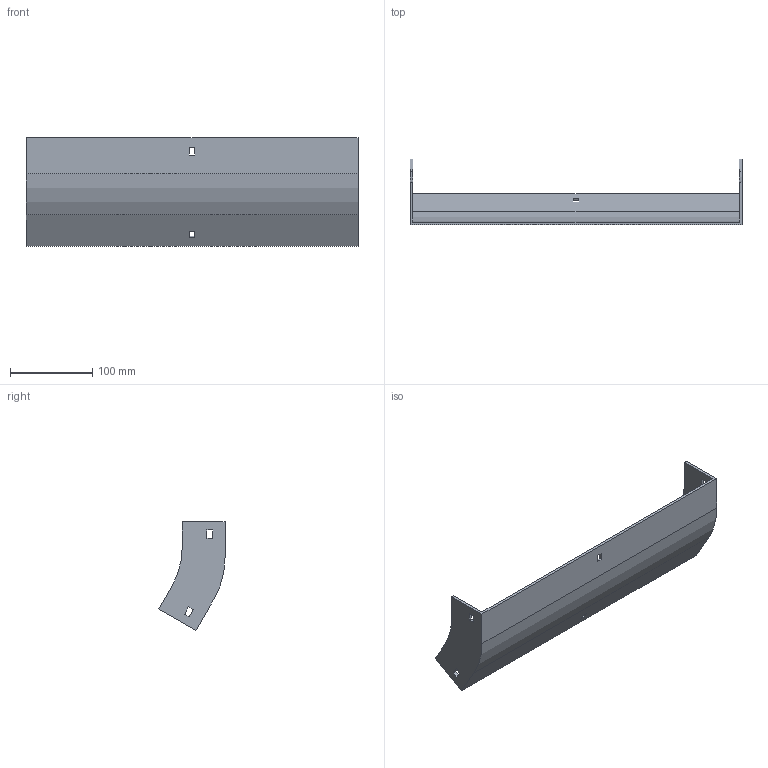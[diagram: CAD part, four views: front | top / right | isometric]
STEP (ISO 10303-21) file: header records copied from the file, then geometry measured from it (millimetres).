
FILE_DESCRIPTION (( 'STEP AP214' ), '1' );
FILE_NAME ('32F1B400.step', '2025-02-21T12:58:13', ( '' ), ( '' ), 'SwSTEP 2.0', 'SolidWorks 2023', '' );
FILE_SCHEMA (( 'AUTOMOTIVE_DESIGN' ));
Length unit declared in the file: millimetre
Products named in the file (1): 32F1B400
Bounding box: 404 x 80.4 x 131.98 mm (x, y, z)
Volume: 238600.6 mm3; surface area: 141336.1 mm2
Topology: 1 solids, 1 shells, 42 faces, 120 edges, 80 vertices
Faces by surface type: plane 38, cylinder 4
Entity records: 1399 total; most frequent: CARTESIAN_POINT 243, ORIENTED_EDGE 240, DIRECTION 214, EDGE_CURVE 120, LINE 112, VECTOR 112, VERTEX_POINT 80, EDGE_LOOP 54
